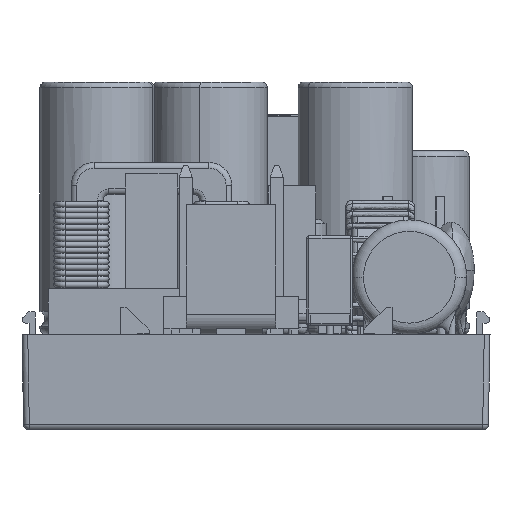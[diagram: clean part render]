
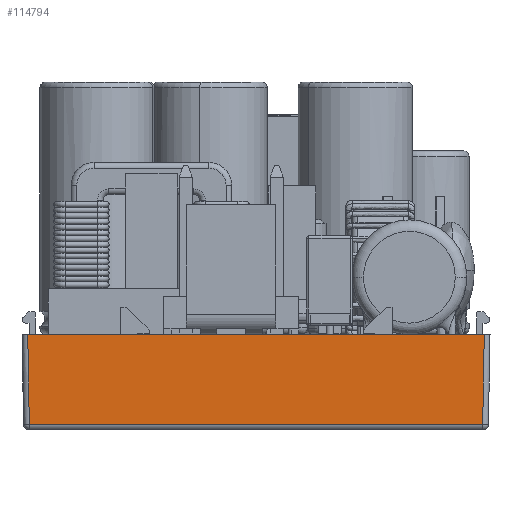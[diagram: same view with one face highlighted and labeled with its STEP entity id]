
A CAD part, left-side view. The second image highlights one B-rep face of the part: STEP entity #114794.
In plain terms, the highlighted planar face has unit normal (-1, 0, -0.018).
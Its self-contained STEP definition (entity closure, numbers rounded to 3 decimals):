
#2250 = EDGE_CURVE ( 'NONE', #54989, #54553, #53490, .T. ) ;
#8642 = ORIENTED_EDGE ( 'NONE', *, *, #2250, .F. ) ;
#10922 = PLANE ( 'NONE',  #141012 ) ;
#14695 = CARTESIAN_POINT ( 'NONE',  ( -71.133, -11.543, -14.65 ) ) ;
#14924 = VECTOR ( 'NONE', #116307, 1000. ) ;
#22192 = VERTEX_POINT ( 'NONE', #64594 ) ;
#24930 = CARTESIAN_POINT ( 'NONE',  ( -71.269, 8.201, -6.842 ) ) ;
#33340 = DIRECTION ( 'NONE',  ( -1., 0., -0.017 ) ) ;
#36944 = VECTOR ( 'NONE', #110563, 1000. ) ;
#41704 = VECTOR ( 'NONE', #127489, 1000. ) ;
#49935 = VECTOR ( 'NONE', #101585, 1000. ) ;
#53490 = LINE ( 'NONE', #24930, #41704 ) ;
#54553 = VERTEX_POINT ( 'NONE', #84653 ) ;
#54989 = VERTEX_POINT ( 'NONE', #117648 ) ;
#55105 = FACE_OUTER_BOUND ( 'NONE', #190299, .T. ) ;
#64594 = CARTESIAN_POINT ( 'NONE',  ( -71.133, 27.945, -14.65 ) ) ;
#69547 = ORIENTED_EDGE ( 'NONE', *, *, #137411, .T. ) ;
#84653 = CARTESIAN_POINT ( 'NONE',  ( -71.269, -11.68, -6.842 ) ) ;
#87655 = VERTEX_POINT ( 'NONE', #14695 ) ;
#87684 = CARTESIAN_POINT ( 'NONE',  ( -71.133, -17.915, -14.65 ) ) ;
#101585 = DIRECTION ( 'NONE',  ( -0.017, -0.017, 1. ) ) ;
#110563 = DIRECTION ( 'NONE',  ( 0.017, -0.017, -1. ) ) ;
#114794 = ADVANCED_FACE ( 'NONE', ( #55105 ), #10922, .T. ) ;
#116307 = DIRECTION ( 'NONE',  ( 0., -1., 0. ) ) ;
#116376 = CARTESIAN_POINT ( 'NONE',  ( -71.106, -11.517, -16.15 ) ) ;
#117648 = CARTESIAN_POINT ( 'NONE',  ( -71.269, 28.082, -6.842 ) ) ;
#127489 = DIRECTION ( 'NONE',  ( 0., -1., 0. ) ) ;
#128671 = EDGE_CURVE ( 'NONE', #54989, #22192, #169809, .T. ) ;
#130721 = ORIENTED_EDGE ( 'NONE', *, *, #144390, .T. ) ;
#133045 = LINE ( 'NONE', #87684, #14924 ) ;
#136872 = DIRECTION ( 'NONE',  ( -0.017, 0., 1. ) ) ;
#137411 = EDGE_CURVE ( 'NONE', #87655, #54553, #162788, .T. ) ;
#141012 = AXIS2_PLACEMENT_3D ( 'NONE', #149734, #33340, #136872 ) ;
#143058 = CARTESIAN_POINT ( 'NONE',  ( -71.258, 28.071, -7.442 ) ) ;
#144390 = EDGE_CURVE ( 'NONE', #22192, #87655, #133045, .T. ) ;
#149734 = CARTESIAN_POINT ( 'NONE',  ( -71.258, 22.933, -7.45 ) ) ;
#162788 = LINE ( 'NONE', #116376, #49935 ) ;
#168216 = ORIENTED_EDGE ( 'NONE', *, *, #128671, .T. ) ;
#169809 = LINE ( 'NONE', #143058, #36944 ) ;
#190299 = EDGE_LOOP ( 'NONE', ( #168216, #130721, #69547, #8642 ) ) ;
